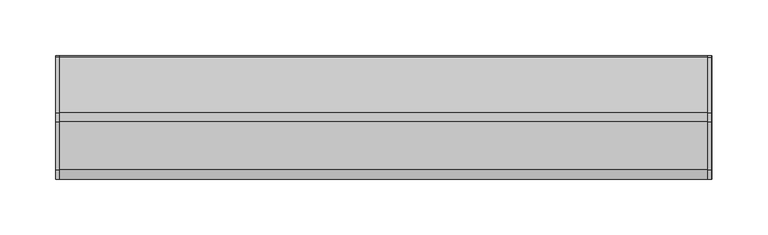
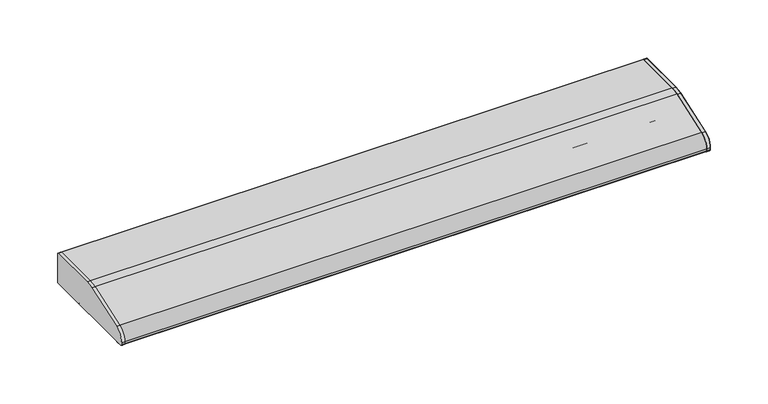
"""IFC4 building model written with IfcOpenShell, lengths in millimetres: light fixture geometry, HermanMiller_SupplementalProducts_G6136_UtilityTaskLight : AO Etho Canvas 30W."""

import ifcopenshell
import ifcopenshell.guid

model = None  # the IFC model being written
_history = None  # IfcOwnerHistory: only IFC2X3 demands one
_inside = {}  # id of a spatial element -> (the spatial element, [elements in it])
_under = {}  # id of a project, library or spatial element -> (it, [spatial elements below it])
_declared = {}  # id of a project -> (the project, [libraries it declares])
_typed = {}  # id of a type object -> (the type object, [elements of that type])
_made_of = {}  # id of a material, layer set ... -> (it, [elements and type objects made of it])


def new_model(schema):
    """Start an empty IFC model of exactly this schema.

    Asked for "IFC4X3", IfcOpenShell would pick the latest addendum, in which some entities
    have other attributes; the version numbers below select the first issue.
    IFC2X3 requires an IfcOwnerHistory on every rooted entity: one is made here for all.
    """
    global model, _history
    if schema == "IFC4X3":
        model = ifcopenshell.file(schema_version=(4, 3, 0, 0))
    else:
        model = ifcopenshell.file(schema=schema)
    _inside.clear()
    _under.clear()
    _declared.clear()
    _typed.clear()
    _made_of.clear()
    _history = None
    if model.schema == "IFC2X3":
        org = make("IfcOrganization", Name="unknown")
        user = make(
            "IfcPersonAndOrganization",
            ThePerson=make("IfcPerson", FamilyName="unknown"),
            TheOrganization=org,
        )
        app = make(
            "IfcApplication",
            ApplicationDeveloper=org,
            Version="unknown",
            ApplicationFullName="unknown",
            ApplicationIdentifier="unknown",
        )
        _history = make(
            "IfcOwnerHistory",
            OwningUser=user,
            OwningApplication=app,
            ChangeAction="ADDED",
            CreationDate=0,
        )
    return model


def make(cls, **values):
    """One entity of the class cls with the attributes given. An attribute that is None is left unset."""
    return model.create_entity(
        cls, **{name: value for name, value in values.items() if value is not None}
    )


def rooted(cls, **values):
    """An entity with a GlobalId (a new one), such as an element, a storey or a relation."""
    return make(cls, GlobalId=ifcopenshell.guid.new(), OwnerHistory=_history, **values)


def si_unit(unit_type, name, prefix=None):
    """IfcSIUnit, for example si_unit("LENGTHUNIT", "METRE", prefix="MILLI")."""
    return make("IfcSIUnit", UnitType=unit_type, Prefix=prefix, Name=name)


def assignment(units):
    """IfcUnitAssignment: the units of a project."""
    return None if units is None else make("IfcUnitAssignment", Units=units)


def point(xyz):
    """IfcCartesianPoint."""
    return None if xyz is None else make("IfcCartesianPoint", Coordinates=xyz)


def direction(xyz):
    """IfcDirection."""
    return None if xyz is None else make("IfcDirection", DirectionRatios=xyz)


def frame(location, z_axis=None, x_axis=None):
    """IfcAxis2Placement3D, a coordinate frame: its origin and axes. An axis left out is left unset."""
    return make(
        "IfcAxis2Placement3D",
        Location=point(location),
        Axis=direction(z_axis),
        RefDirection=direction(x_axis),
    )


def frame_2d(location, x_axis=None):
    """IfcAxis2Placement2D, a coordinate frame in the plane: its origin and x axis."""
    return make(
        "IfcAxis2Placement2D", Location=point(location), RefDirection=direction(x_axis)
    )


def origin():
    """The frame at (0, 0, 0) with its axes left unset."""
    return frame((0.0, 0.0, 0.0))


def place(relative_to, where):
    """IfcLocalPlacement: puts the frame where relative to a parent placement (None: the world)."""
    return make(
        "IfcLocalPlacement", PlacementRelTo=relative_to, RelativePlacement=where
    )


def context(
    kind, dimensions, precision=None, world=None, true_north=None, identifier=None
):
    """IfcGeometricRepresentationContext, for example the 3D "Model" context."""
    return make(
        "IfcGeometricRepresentationContext",
        ContextIdentifier=identifier,
        ContextType=kind,
        CoordinateSpaceDimension=dimensions,
        Precision=precision,
        WorldCoordinateSystem=world,
        TrueNorth=true_north,
    )


def project(units=None, contexts=None):
    """IfcProject with its units and contexts."""
    return rooted(
        "IfcProject",
        Name="project",
        RepresentationContexts=contexts,
        UnitsInContext=assignment(units),
    )


def spatial(cls, under=None, at=None, **own):
    """A site, building, storey or space (cls), placed at a placement, below another one or the project."""
    s = rooted(cls, ObjectPlacement=at, **own)
    if under is not None:
        _under.setdefault(under.id(), (under, []))[1].append(s)
    return s


def polyline(points):
    """IfcPolyline through the points."""
    return make("IfcPolyline", Points=[point(p) for p in points])


def circle_curve(where, radius):
    """IfcCircle in the frame where."""
    return make("IfcCircle", Position=where, Radius=radius)


def trimmed(basis, trim1, trim2, sense, master):
    """IfcTrimmedCurve: the piece of a basis curve between two trims."""
    return make(
        "IfcTrimmedCurve",
        BasisCurve=basis,
        Trim1=trim1,
        Trim2=trim2,
        SenseAgreement=sense,
        MasterRepresentation=master,
    )


def segment(curve, same_sense, transition):
    """IfcCompositeCurveSegment."""
    return make(
        "IfcCompositeCurveSegment",
        Transition=transition,
        SameSense=same_sense,
        ParentCurve=curve,
    )


def composite_curve(segments, self_intersect=None):
    """IfcCompositeCurve: segments joined end to end."""
    return make("IfcCompositeCurve", Segments=segments, SelfIntersect=self_intersect)


def outline(outer, holes=None, kind="AREA"):
    """IfcArbitraryClosedProfileDef: a profile drawn as a closed curve; with holes, ...WithVoids."""
    if holes is None:
        return make("IfcArbitraryClosedProfileDef", ProfileType=kind, OuterCurve=outer)
    return make(
        "IfcArbitraryProfileDefWithVoids",
        ProfileType=kind,
        OuterCurve=outer,
        InnerCurves=holes,
    )


def extrude(swept, where, along, depth):
    """IfcExtrudedAreaSolid: the profile swept, set in the frame where, extruded along a direction by depth."""
    return make(
        "IfcExtrudedAreaSolid",
        SweptArea=swept,
        Position=where,
        ExtrudedDirection=direction(along),
        Depth=depth,
    )


def shape(context_of_items, identifier, shape_type, items):
    """IfcShapeRepresentation: the items that make up one representation, for example the "Body"."""
    return make(
        "IfcShapeRepresentation",
        ContextOfItems=context_of_items,
        RepresentationIdentifier=identifier,
        RepresentationType=shape_type,
        Items=items,
    )


def source(mapping_origin, context_of_items, identifier, shape_type, items):
    """IfcRepresentationMap: a shape defined once, which mapped items show again and again."""
    return make(
        "IfcRepresentationMap",
        MappingOrigin=mapping_origin,
        MappedRepresentation=shape(context_of_items, identifier, shape_type, items),
    )


def transform(
    local_origin,
    x_axis=None,
    y_axis=None,
    z_axis=None,
    scale=None,
    scale2=None,
    scale3=None,
    uniform=True,
):
    """IfcCartesianTransformationOperator3D, or its non-uniform kind. x_axis, y_axis, z_axis: its Axis1, 2, 3."""
    if uniform:
        return make(
            "IfcCartesianTransformationOperator3D",
            Axis1=direction(x_axis),
            Axis2=direction(y_axis),
            LocalOrigin=point(local_origin),
            Scale=scale,
            Axis3=direction(z_axis),
        )
    return make(
        "IfcCartesianTransformationOperator3DnonUniform",
        Axis1=direction(x_axis),
        Axis2=direction(y_axis),
        LocalOrigin=point(local_origin),
        Scale=scale,
        Axis3=direction(z_axis),
        Scale2=scale2,
        Scale3=scale3,
    )


def mapped(mapping_source, mapping_target):
    """IfcMappedItem: shows the shape of a source again, moved by a transform."""
    return make(
        "IfcMappedItem", MappingSource=mapping_source, MappingTarget=mapping_target
    )


def made_of(thing, what):
    """Note that an element or type object is made of a material, layer set ...; save() writes the relation."""
    if what is not None:
        _made_of.setdefault(what.id(), (what, []))[1].append(thing)
    return thing


def element(
    cls,
    number,
    at=None,
    inside=None,
    cuts=None,
    type_object=None,
    material=None,
    context=None,
    identifier="Body",
    shape_type=None,
    held_by="IfcProductDefinitionShape",
    body=None,
    shapes=None,
    **own,
):
    """One element of the class cls, such as IfcWall. Its Tag is "e" and its number.

    at: its placement. inside: the storey or other place that contains it. cuts: it is an
    opening in that element (IfcRelVoidsElement). A single representation is given by context,
    identifier, shape_type and body (its items); several are given by shapes. held_by: the class
    of the entity that holds the representations. save() writes the other relations.
    """
    e = rooted(cls, Tag="e%d" % number, ObjectPlacement=at, **own)
    if body is not None:
        shapes = [shape(context, identifier, shape_type, body)]
    if shapes is not None:
        e.Representation = make(held_by, Representations=shapes)
    if inside is not None:
        _inside.setdefault(inside.id(), (inside, []))[1].append(e)
    if cuts is not None:
        rooted(
            "IfcRelVoidsElement", RelatingBuildingElement=cuts, RelatedOpeningElement=e
        )
    if type_object is not None:
        _typed.setdefault(type_object.id(), (type_object, []))[1].append(e)
    return made_of(e, material)


def aggregate(whole, parts):
    """IfcRelAggregates: a whole, such as a stair, and the parts it consists of."""
    return rooted("IfcRelAggregates", RelatingObject=whole, RelatedObjects=parts)


def save(model, path):
    """Write the relations noted so far, then the file.

    IfcRelAggregates (storeys below a building ...), IfcRelContainedInSpatialStructure (elements
    in a storey), IfcRelDefinesByType, IfcRelAssociatesMaterial and IfcRelDeclares: one each for
    every whole, place, type object, material and project.
    """
    for whole, parts in _under.values():
        aggregate(whole, parts)
    for where, things in _inside.values():
        rooted(
            "IfcRelContainedInSpatialStructure",
            RelatedElements=things,
            RelatingStructure=where,
        )
    for kind, things in _typed.values():
        rooted("IfcRelDefinesByType", RelatedObjects=things, RelatingType=kind)
    for what, things in _made_of.values():
        rooted("IfcRelAssociatesMaterial", RelatedObjects=things, RelatingMaterial=what)
    for by, libraries in _declared.values():
        rooted("IfcRelDeclares", RelatingContext=by, RelatedDefinitions=libraries)
    model.write(path)


def light_fixture_b5f3cc62(model_context):
    return source(origin(), model_context, "Body", "SweptSolid", [
        extrude(outline(composite_curve([segment(polyline([(53.975, 1308.1), (-53.975, 1308.1)]), True, "CONTINUOUS"), segment(trimmed(circle_curve(frame_2d((-53.975, 1309.6875)), 1.5875), [point((-53.975, 1308.1))], [point((-55.5625, 1309.6875))], False, "CARTESIAN"), True, "CONTINUOUS"), segment(polyline([(-55.5625, 1309.6875), (-55.5625, 1311.7285714)]), True, "CONTINUOUS"), segment(trimmed(circle_curve(frame_2d((-42.8625, 1311.7285714)), 12.7), [point((-55.5625, 1311.7285714))], [point((-46.9814189, 1323.7420849))], False, "CARTESIAN"), True, "CONTINUOUS"), segment(polyline([(-46.9814189, 1323.7420849), (-4.0045045, 1338.477027)]), True, "CONTINUOUS"), segment(trimmed(circle_curve(frame_2d((4.2333333, 1314.45)), 25.4), [point((-4.0045045, 1338.477027))], [point((4.2333333, 1339.85))], False, "CARTESIAN"), True, "CONTINUOUS"), segment(polyline([(4.2333333, 1339.85), (53.975, 1339.85)]), True, "CONTINUOUS"), segment(trimmed(circle_curve(frame_2d((53.975, 1338.2625)), 1.5875), [point((53.975, 1339.85))], [point((55.5625, 1338.2625))], False, "CARTESIAN"), True, "CONTINUOUS"), segment(polyline([(55.5625, 1338.2625), (55.5625, 1309.6875)]), True, "CONTINUOUS"), segment(trimmed(circle_curve(frame_2d((53.975, 1309.6875)), 1.5875), [point((55.5625, 1309.6875))], [point((53.975, 1308.1))], False, "CARTESIAN"), True, "CONTINUOUS")], self_intersect=False)), frame((291.846, 0.0, 0.0), z_axis=(1.0, 0.0, 0.0), x_axis=(0.0, 1.0, 0.0)), (0.0, 0.0, 1.0), 3.175),
        extrude(outline(composite_curve([segment(trimmed(circle_curve(frame_2d((53.975, 1338.2625)), 1.5875), [point((53.975, 1339.85))], [point((55.5625, 1338.2625))], False, "CARTESIAN"), True, "CONTINUOUS"), segment(polyline([(55.5625, 1338.2625), (55.5625, 1309.6875)]), True, "CONTINUOUS"), segment(trimmed(circle_curve(frame_2d((53.975, 1309.6875)), 1.5875), [point((55.5625, 1309.6875))], [point((53.975, 1308.1))], False, "CARTESIAN"), True, "CONTINUOUS"), segment(polyline([(53.975, 1308.1), (-53.975, 1308.1)]), True, "CONTINUOUS"), segment(trimmed(circle_curve(frame_2d((-53.975, 1309.6875)), 1.5875), [point((-53.975, 1308.1))], [point((-55.5625, 1309.6875))], False, "CARTESIAN"), True, "CONTINUOUS"), segment(polyline([(-55.5625, 1309.6875), (-55.5625, 1311.7285714)]), True, "CONTINUOUS"), segment(trimmed(circle_curve(frame_2d((-42.8625, 1311.7285714)), 12.7), [point((-55.5625, 1311.7285714))], [point((-46.9814189, 1323.7420849))], False, "CARTESIAN"), True, "CONTINUOUS"), segment(polyline([(-46.9814189, 1323.7420849), (-4.0045045, 1338.477027)]), True, "CONTINUOUS"), segment(trimmed(circle_curve(frame_2d((4.2333333, 1314.45)), 25.4), [point((-4.0045045, 1338.477027))], [point((4.2333333, 1339.85))], False, "CARTESIAN"), True, "CONTINUOUS"), segment(polyline([(4.2333333, 1339.85), (53.975, 1339.85)]), True, "CONTINUOUS")], self_intersect=False)), frame((-295.021, 0.0, 0.0), z_axis=(1.0, 0.0, 0.0), x_axis=(0.0, 1.0, 0.0)), (0.0, 0.0, 1.0), 3.175),
        extrude(outline(composite_curve([segment(polyline([(55.5625, 1338.2625), (55.5625, 1309.6875)]), True, "CONTINUOUS"), segment(trimmed(circle_curve(frame_2d((53.975, 1309.6875)), 1.5875), [point((55.5625, 1309.6875))], [point((53.975, 1308.1))], False, "CARTESIAN"), True, "CONTINUOUS"), segment(polyline([(53.975, 1308.1), (19.05, 1308.1)]), True, "CONTINUOUS"), segment(trimmed(circle_curve(frame_2d((19.05, 1309.6875)), 1.5875), [point((19.05, 1308.1))], [point((17.4625, 1309.6875))], False, "CARTESIAN"), True, "CONTINUOUS"), segment(polyline([(17.4625, 1309.6875), (17.4625, 1338.2625), (4.4979167, 1338.2625)]), True, "CONTINUOUS"), segment(trimmed(circle_curve(frame_2d((4.4979167, 1312.8625)), 25.4), [point((4.4979167, 1338.2625))], [point((-3.7399212, 1336.889527))], True, "CARTESIAN"), True, "CONTINUOUS"), segment(polyline([(-3.7399212, 1336.889527), (-37.4564189, 1325.3295849)]), True, "CONTINUOUS"), segment(trimmed(circle_curve(frame_2d((-33.3375, 1313.3160714)), 12.7), [point((-37.4564189, 1325.3295849))], [point((-46.0375, 1313.3160714))], True, "CARTESIAN"), True, "CONTINUOUS"), segment(polyline([(-46.0375, 1313.3160714), (-46.0375, 1309.6875)]), True, "CONTINUOUS"), segment(trimmed(circle_curve(frame_2d((-47.625, 1309.6875)), 1.5875), [point((-46.0375, 1309.6875))], [point((-47.625, 1308.1))], False, "CARTESIAN"), True, "CONTINUOUS"), segment(polyline([(-47.625, 1308.1), (-53.975, 1308.1)]), True, "CONTINUOUS"), segment(trimmed(circle_curve(frame_2d((-53.975, 1309.6875)), 1.5875), [point((-53.975, 1308.1))], [point((-55.5625, 1309.6875))], False, "CARTESIAN"), True, "CONTINUOUS"), segment(polyline([(-55.5625, 1309.6875), (-55.5625, 1311.7285714)]), True, "CONTINUOUS"), segment(trimmed(circle_curve(frame_2d((-42.8625, 1311.7285714)), 12.7), [point((-55.5625, 1311.7285714))], [point((-46.9814189, 1323.7420849))], False, "CARTESIAN"), True, "CONTINUOUS"), segment(polyline([(-46.9814189, 1323.7420849), (-4.0045045, 1338.477027)]), True, "CONTINUOUS"), segment(trimmed(circle_curve(frame_2d((4.2333333, 1314.45)), 25.4), [point((-4.0045045, 1338.477027))], [point((4.2333333, 1339.85))], False, "CARTESIAN"), True, "CONTINUOUS"), segment(polyline([(4.2333333, 1339.85), (53.975, 1339.85)]), True, "CONTINUOUS"), segment(trimmed(circle_curve(frame_2d((53.975, 1338.2625)), 1.5875), [point((53.975, 1339.85))], [point((55.5625, 1338.2625))], False, "CARTESIAN"), True, "CONTINUOUS")], self_intersect=False)), frame((-295.021, 0.0, 0.0), z_axis=(1.0, 0.0, 0.0), x_axis=(0.0, 1.0, 0.0)), (0.0, 0.0, 1.0), 590.5080011),
        extrude(outline(composite_curve([segment(trimmed(circle_curve(frame_2d((1.5875, 1325.5625)), 9.525), [point((-7.9375, 1325.5625))], [point((11.1125, 1325.5625))], False, "CARTESIAN"), True, "CONTINUOUS"), segment(trimmed(circle_curve(frame_2d((1.5875, 1325.5625)), 9.525), [point((11.1125, 1325.5625))], [point((-7.9375, 1325.5625))], False, "CARTESIAN"), True, "CONTINUOUS")], self_intersect=False)), frame((269.621, 0.0, 0.0), z_axis=(1.0, 0.0, 0.0), x_axis=(0.0, 1.0, 0.0)), (0.0, 0.0, 1.0), 12.7),
        extrude(outline(composite_curve([segment(trimmed(circle_curve(frame_2d((1.5875, 1325.5625)), 9.525), [point((-7.9375, 1325.5625))], [point((11.1125, 1325.5625))], False, "CARTESIAN"), True, "CONTINUOUS"), segment(trimmed(circle_curve(frame_2d((1.5875, 1325.5625)), 9.525), [point((11.1125, 1325.5625))], [point((-7.9375, 1325.5625))], False, "CARTESIAN"), True, "CONTINUOUS")], self_intersect=False)), frame((-282.321, 0.0, 0.0), z_axis=(1.0, 0.0, 0.0), x_axis=(0.0, 1.0, 0.0)), (0.0, 0.0, 1.0), 12.7),
        extrude(outline(composite_curve([segment(trimmed(circle_curve(frame_2d((1.5875, 1325.5625)), 9.525), [point((-7.9375, 1325.5625))], [point((11.1125, 1325.5625))], False, "CARTESIAN"), True, "CONTINUOUS"), segment(trimmed(circle_curve(frame_2d((1.5875, 1325.5625)), 9.525), [point((11.1125, 1325.5625))], [point((-7.9375, 1325.5625))], False, "CARTESIAN"), True, "CONTINUOUS")], self_intersect=False)), frame((-269.621, 0.0, 0.0), z_axis=(1.0, 0.0, 0.0), x_axis=(0.0, 1.0, 0.0)), (0.0, 0.0, 1.0), 539.242),
        extrude(outline(composite_curve([segment(polyline([(17.4625, 1311.275), (-46.0375, 1311.275), (-46.0375, 1313.3160714)]), True, "CONTINUOUS"), segment(trimmed(circle_curve(frame_2d((-33.3375, 1313.3160714)), 12.7), [point((-46.0375, 1313.3160714))], [point((-37.4564189, 1325.3295849))], False, "CARTESIAN"), True, "CONTINUOUS"), segment(polyline([(-37.4564189, 1325.3295849), (-3.7399212, 1336.889527)]), True, "CONTINUOUS"), segment(trimmed(circle_curve(frame_2d((4.4979167, 1312.8625)), 25.4), [point((-3.7399212, 1336.889527))], [point((4.4979167, 1338.2625))], False, "CARTESIAN"), True, "CONTINUOUS"), segment(polyline([(4.4979167, 1338.2625), (17.4625, 1338.2625), (17.4625, 1311.275)]), True, "CONTINUOUS")], self_intersect=False)), frame((282.321, 0.0, 0.0), z_axis=(1.0, 0.0, 0.0), x_axis=(0.0, 1.0, 0.0)), (0.0, 0.0, 1.0), 9.525),
        extrude(outline(composite_curve([segment(polyline([(17.4625, 1311.275), (-46.0375, 1311.275), (-46.0375, 1313.3160714)]), True, "CONTINUOUS"), segment(trimmed(circle_curve(frame_2d((-33.3375, 1313.3160714)), 12.7), [point((-46.0375, 1313.3160714))], [point((-37.4564189, 1325.3295849))], False, "CARTESIAN"), True, "CONTINUOUS"), segment(polyline([(-37.4564189, 1325.3295849), (-3.7399212, 1336.889527)]), True, "CONTINUOUS"), segment(trimmed(circle_curve(frame_2d((4.4979167, 1312.8625)), 25.4), [point((-3.7399212, 1336.889527))], [point((4.4979167, 1338.2625))], False, "CARTESIAN"), True, "CONTINUOUS"), segment(polyline([(4.4979167, 1338.2625), (17.4625, 1338.2625), (17.4625, 1311.275)]), True, "CONTINUOUS")], self_intersect=False)), frame((-291.846, 0.0, 0.0), z_axis=(1.0, 0.0, 0.0), x_axis=(0.0, 1.0, 0.0)), (0.0, 0.0, 1.0), 9.525),
    ])


if __name__ == "__main__":
    model = new_model("IFC4")
    model_context = context("Model", 3, world=origin())
    ifc_project = project(units=[si_unit("LENGTHUNIT", "METRE", prefix="MILLI")], contexts=[model_context])
    site = spatial("IfcSite", under=ifc_project)
    building = spatial("IfcBuilding", under=site)
    placement = place(None, origin())
    light_fixture_shape = light_fixture_b5f3cc62(model_context)
    element("IfcLightFixture", 1, ObjectType="HermanMiller_SupplementalProducts_G6136_UtilityTaskLight : AO Etho Canvas 30W", at=placement, inside=building, context=model_context, shape_type="MappedRepresentation", body=[
        mapped(light_fixture_shape, transform((0.0, 0.0, 0.0), x_axis=(1.0, 0.0, 0.0), y_axis=(0.0, 1.0, 0.0), z_axis=(0.0, 0.0, 1.0))),
    ])
    save(model, "model.ifc")
